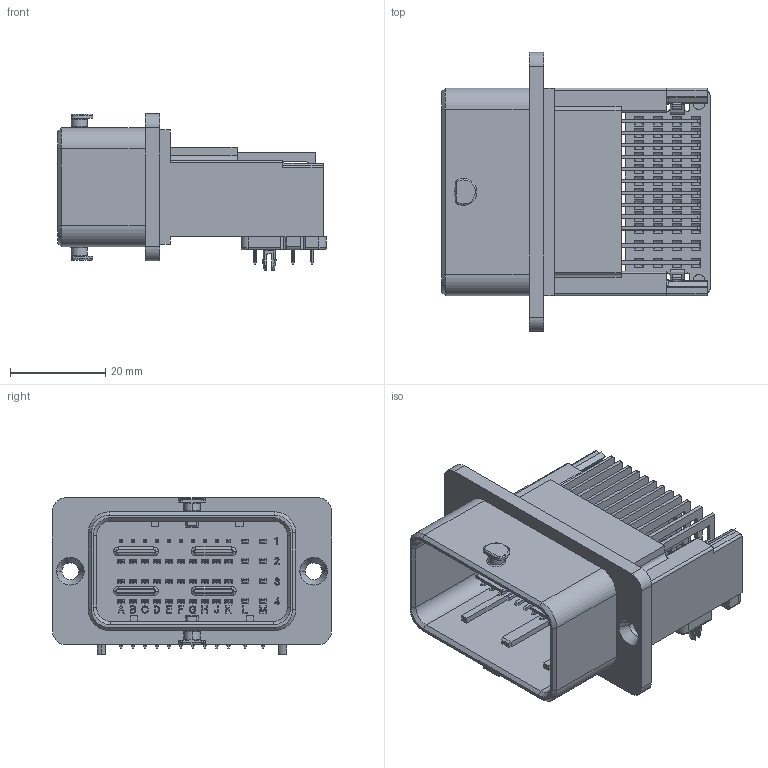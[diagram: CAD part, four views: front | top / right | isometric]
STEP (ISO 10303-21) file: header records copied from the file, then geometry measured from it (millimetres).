
FILE_DESCRIPTION((''),'2;1');
FILE_NAME('366380003','2014-04-28T',('Me'),(''),'PRO/ENGINEER BY PARAMETRIC TECHNOLOGY CORPORATION, 2011490','PRO/ENGINEER BY PARAMETRIC TECHNOLOGY CORPORATION, 2011490','');
FILE_SCHEMA(('CONFIG_CONTROL_DESIGN'));
Products named in the file (1): 366380003
Bounding box: 56.22 x 58.5 x 32.9 mm (x, y, z)
Volume: 22109.4 mm3; surface area: 27708.7 mm2
Topology: 1 solids, 1 shells, 5460 faces, 15939 edges, 10496 vertices
Faces by surface type: plane 4362, cylinder 920, bspline 106, torus 38, cone 34
Entity records: 182083 total; most frequent: CARTESIAN_POINT 36984, ORIENTED_EDGE 31678, DIRECTION 27690, EDGE_CURVE 15839, VECTOR 13510, LINE 13510, VERTEX_POINT 10396, AXIS2_PLACEMENT_3D 7090
